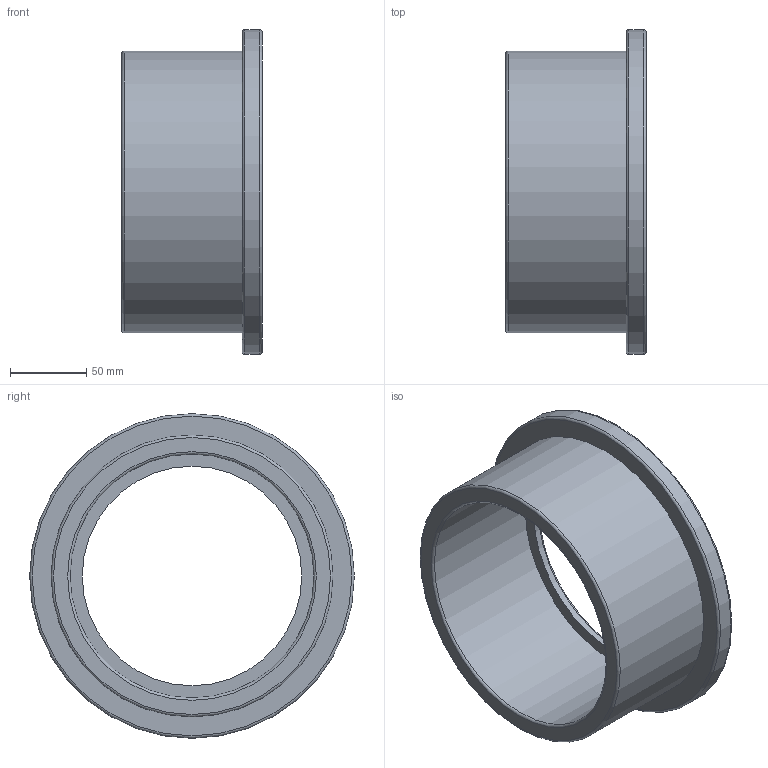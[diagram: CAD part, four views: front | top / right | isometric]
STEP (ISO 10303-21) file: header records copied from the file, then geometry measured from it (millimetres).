
FILE_DESCRIPTION(/* description */ ('PLASSON FLANGE FLAT AD.-CEM 160'),/* implementation_level */ '2;1');
FILE_NAME(/* name */ 'C:\Dropbox\KIMPROJECTS-Inventor\99-16-3568-Processing\PVC Catalog 2017\26_09_18\055100\055100160.ipt.stp',/* time_stamp */ '2018-09-27T11:51:00+03:00',/* author */ ('KIM'),/* organization */ (''),/* preprocessor_version */ 'ST-DEVELOPER v15.6',/* originating_system */ 'Autodesk Inventor 2015',/* authorisation */ '');
FILE_SCHEMA (('AUTOMOTIVE_DESIGN { 1 0 10303 214 3 1 1 }'));
Length unit declared in the file: millimetre
Products named in the file (1): 055100160
Bounding box: 92 x 213 x 213 mm (x, y, z)
Volume: 758338.7 mm3; surface area: 137274.4 mm2
Topology: 1 solids, 1 shells, 13 faces, 22 edges, 13 vertices
Faces by surface type: torus 5, cylinder 4, plane 4
Full cylindrical faces by diameter (mm): 144 x1, 160 x1, 185 x1, 213 x1
Entity records: 292 total; most frequent: DIRECTION 54, CARTESIAN_POINT 40, AXIS2_PLACEMENT_3D 27, EDGE_LOOP 26, ORIENTED_EDGE 26, FACE_BOUND 13, FACE_OUTER_BOUND 13, CIRCLE 13
